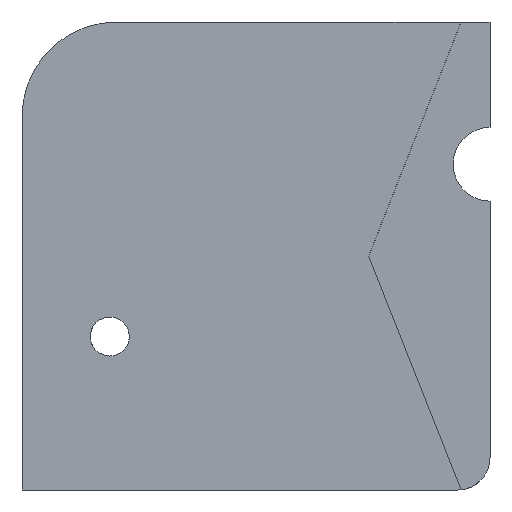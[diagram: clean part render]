
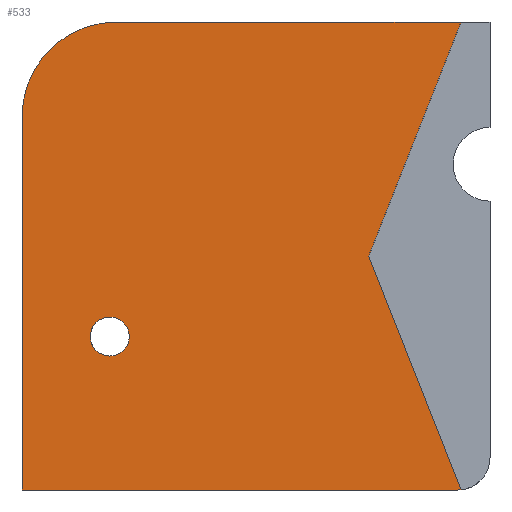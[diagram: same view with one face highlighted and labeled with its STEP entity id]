
A CAD part, left-side view. The second image highlights one B-rep face of the part: STEP entity #533.
In plain terms, the highlighted planar face has unit normal (-1, 0, 0).
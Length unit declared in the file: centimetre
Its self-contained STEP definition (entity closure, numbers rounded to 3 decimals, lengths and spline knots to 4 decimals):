
#23 = EDGE_CURVE ( 'NONE', #172, #1093, #35, .T. ) ;
#26 = EDGE_CURVE ( 'NONE', #1174, #41, #634, .T. ) ;
#35 = CIRCLE ( 'NONE', #158, 201.8914 ) ;
#39 = ORIENTED_EDGE ( 'NONE', *, *, #760, .F. ) ;
#41 = VERTEX_POINT ( 'NONE', #344 ) ;
#44 = CARTESIAN_POINT ( 'NONE',  ( 0., 69.1699, 0. ) ) ;
#63 = CARTESIAN_POINT ( 'NONE',  ( 0., 1000., 0. ) ) ;
#69 = EDGE_CURVE ( 'NONE', #1093, #618, #159, .T. ) ;
#92 = EDGE_CURVE ( 'NONE', #618, #1174, #964, .T. ) ;
#111 = VECTOR ( 'NONE', #1140, 100. ) ;
#144 = PLANE ( 'NONE',  #212 ) ;
#152 = EDGE_CURVE ( 'NONE', #304, #518, #612, .T. ) ;
#158 = AXIS2_PLACEMENT_3D ( 'NONE', #741, #1007, #179 ) ;
#159 = LINE ( 'NONE', #524, #111 ) ;
#169 = LINE ( 'NONE', #779, #709 ) ;
#172 = VERTEX_POINT ( 'NONE', #1006 ) ;
#179 = DIRECTION ( 'NONE',  ( 0., 0., -1. ) ) ;
#185 = CARTESIAN_POINT ( 'NONE',  ( 0., 1000., 1000. ) ) ;
#201 = EDGE_LOOP ( 'NONE', ( #605, #229, #39, #250, #723, #565, #840 ) ) ;
#212 = AXIS2_PLACEMENT_3D ( 'NONE', #866, #332, #243 ) ;
#218 = DIRECTION ( 'NONE',  ( -1., 0., 0. ) ) ;
#220 = VERTEX_POINT ( 'NONE', #447 ) ;
#222 = ORIENTED_EDGE ( 'NONE', *, *, #152, .F. ) ;
#229 = ORIENTED_EDGE ( 'NONE', *, *, #456, .F. ) ;
#243 = DIRECTION ( 'NONE',  ( 0., 0., -1. ) ) ;
#248 = VERTEX_POINT ( 'NONE', #830 ) ;
#250 = ORIENTED_EDGE ( 'NONE', *, *, #603, .F. ) ;
#267 = DIRECTION ( 'NONE',  ( 0., -1., 0. ) ) ;
#304 = VERTEX_POINT ( 'NONE', #731 ) ;
#332 = DIRECTION ( 'NONE',  ( 1., 0., 0. ) ) ;
#344 = CARTESIAN_POINT ( 'NONE',  ( 0., 61.8542, 0.388 ) ) ;
#379 = CARTESIAN_POINT ( 'NONE',  ( 0., 1000., 0. ) ) ;
#447 = CARTESIAN_POINT ( 'NONE',  ( 0., 61.7011, 1000. ) ) ;
#456 = EDGE_CURVE ( 'NONE', #248, #41, #169, .T. ) ;
#471 = EDGE_LOOP ( 'NONE', ( #222, #1044 ) ) ;
#472 = CARTESIAN_POINT ( 'NONE',  ( 0., 61.7011, 1000. ) ) ;
#516 = CARTESIAN_POINT ( 'NONE',  ( 0., 812.589, 286.1768 ) ) ;
#517 = VECTOR ( 'NONE', #267, 100. ) ;
#518 = VERTEX_POINT ( 'NONE', #516 ) ;
#524 = CARTESIAN_POINT ( 'NONE',  ( 0., 1000., 1000. ) ) ;
#530 = AXIS2_PLACEMENT_3D ( 'NONE', #1022, #218, #1015 ) ;
#533 = ADVANCED_FACE ( 'NONE', ( #714, #708 ), #144, .F. ) ;
#537 = DIRECTION ( 'NONE',  ( -1., 0., 0. ) ) ;
#565 = ORIENTED_EDGE ( 'NONE', *, *, #69, .T. ) ;
#575 = DIRECTION ( 'NONE',  ( 0., 0.367, -0.93 ) ) ;
#603 = EDGE_CURVE ( 'NONE', #172, #220, #993, .T. ) ;
#605 = ORIENTED_EDGE ( 'NONE', *, *, #26, .T. ) ;
#609 = VECTOR ( 'NONE', #575, 100. ) ;
#612 = CIRCLE ( 'NONE', #804, 41.6508 ) ;
#618 = VERTEX_POINT ( 'NONE', #379 ) ;
#634 = CIRCLE ( 'NONE', #651, 69.1699 ) ;
#651 = AXIS2_PLACEMENT_3D ( 'NONE', #1134, #537, #1047 ) ;
#686 = CARTESIAN_POINT ( 'NONE',  ( 0., 1000., 798.1086 ) ) ;
#708 = FACE_OUTER_BOUND ( 'NONE', #201, .T. ) ;
#709 = VECTOR ( 'NONE', #1055, 100. ) ;
#714 = FACE_BOUND ( 'NONE', #471, .T. ) ;
#723 = ORIENTED_EDGE ( 'NONE', *, *, #23, .T. ) ;
#731 = CARTESIAN_POINT ( 'NONE',  ( 0., 812.589, 369.4783 ) ) ;
#741 = CARTESIAN_POINT ( 'NONE',  ( 0., 798.1086, 798.1086 ) ) ;
#760 = EDGE_CURVE ( 'NONE', #220, #248, #858, .T. ) ;
#779 = CARTESIAN_POINT ( 'NONE',  ( 0., 259.0899, 500. ) ) ;
#804 = AXIS2_PLACEMENT_3D ( 'NONE', #994, #1002, #914 ) ;
#830 = CARTESIAN_POINT ( 'NONE',  ( 0., 259.0899, 500. ) ) ;
#840 = ORIENTED_EDGE ( 'NONE', *, *, #92, .T. ) ;
#858 = LINE ( 'NONE', #472, #609 ) ;
#866 = CARTESIAN_POINT ( 'NONE',  ( 0., 1000., 1000. ) ) ;
#870 = EDGE_CURVE ( 'NONE', #518, #304, #924, .T. ) ;
#914 = DIRECTION ( 'NONE',  ( 0., 0., 1. ) ) ;
#924 = CIRCLE ( 'NONE', #530, 41.6508 ) ;
#964 = LINE ( 'NONE', #63, #982 ) ;
#978 = DIRECTION ( 'NONE',  ( 0., -1., 0. ) ) ;
#982 = VECTOR ( 'NONE', #978, 100. ) ;
#993 = LINE ( 'NONE', #185, #517 ) ;
#994 = CARTESIAN_POINT ( 'NONE',  ( 0., 812.589, 327.8276 ) ) ;
#1002 = DIRECTION ( 'NONE',  ( -1., 0., 0. ) ) ;
#1006 = CARTESIAN_POINT ( 'NONE',  ( 0., 798.1086, 1000. ) ) ;
#1007 = DIRECTION ( 'NONE',  ( -1., 0., 0. ) ) ;
#1015 = DIRECTION ( 'NONE',  ( 0., 0., 1. ) ) ;
#1022 = CARTESIAN_POINT ( 'NONE',  ( 0., 812.589, 327.8276 ) ) ;
#1044 = ORIENTED_EDGE ( 'NONE', *, *, #870, .F. ) ;
#1047 = DIRECTION ( 'NONE',  ( 0., 0., -1. ) ) ;
#1055 = DIRECTION ( 'NONE',  ( 0., -0.367, -0.93 ) ) ;
#1093 = VERTEX_POINT ( 'NONE', #686 ) ;
#1134 = CARTESIAN_POINT ( 'NONE',  ( 0., 69.1699, 69.1699 ) ) ;
#1140 = DIRECTION ( 'NONE',  ( 0., 0., -1. ) ) ;
#1174 = VERTEX_POINT ( 'NONE', #44 ) ;
